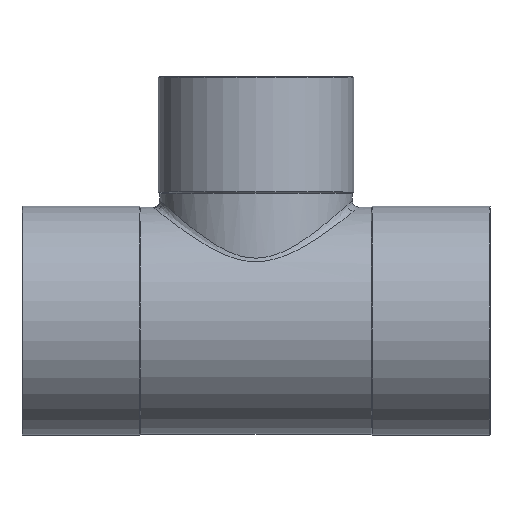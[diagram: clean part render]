
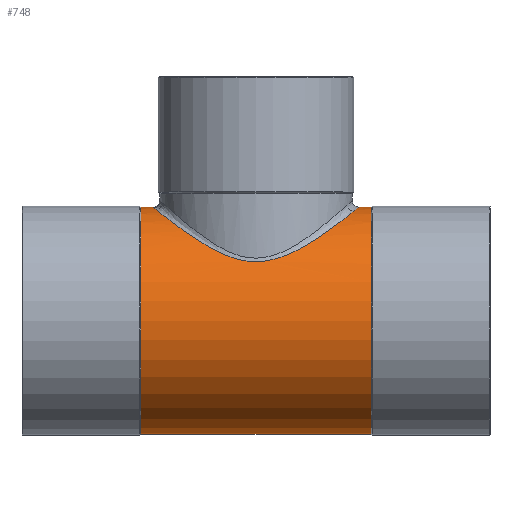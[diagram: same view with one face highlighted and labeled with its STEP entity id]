
A CAD part, top view. The second image highlights one B-rep face of the part: STEP entity #748.
In plain terms, the highlighted cylindrical face has radius 33.5 mm (diameter 67 mm), a partial arc.
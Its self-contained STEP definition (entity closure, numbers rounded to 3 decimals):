
#133=CARTESIAN_POINT('',(33.996,33.5,0.0));
#134=VERTEX_POINT('',#133);
#143=CARTESIAN_POINT('',(33.996,-33.5,0.));
#144=VERTEX_POINT('',#143);
#145=CARTESIAN_POINT('',(33.996,0.0,0.0));
#146=DIRECTION('',(1.0,0.0,0.0));
#147=DIRECTION('',(0.0,1.0,0.0));
#148=AXIS2_PLACEMENT_3D('',#145,#146,#147);
#149=CIRCLE('',#148,33.5);
#150=EDGE_CURVE('',#134,#144,#149,.T.);
#177=CARTESIAN_POINT('',(-33.996,33.5,0.0));
#178=VERTEX_POINT('',#177);
#194=CARTESIAN_POINT('',(-33.996,-33.5,0.));
#195=VERTEX_POINT('',#194);
#202=CARTESIAN_POINT('',(-33.996,0.0,0.0));
#203=DIRECTION('',(1.0,0.0,0.0));
#204=DIRECTION('',(0.0,1.0,0.0));
#205=AXIS2_PLACEMENT_3D('',#202,#203,#204);
#206=CIRCLE('',#205,33.5);
#207=EDGE_CURVE('',#178,#195,#206,.T.);
#698=CARTESIAN_POINT('',(16.998,0.0,0.0));
#699=DIRECTION('',(1.0,0.0,0.0));
#700=DIRECTION('',(0.0,1.0,0.0));
#701=AXIS2_PLACEMENT_3D('',#698,#699,#700);
#702=CYLINDRICAL_SURFACE('',#701,33.5);
#703=CARTESIAN_POINT('',(-30.35,33.5,0.));
#704=VERTEX_POINT('',#703);
#705=CARTESIAN_POINT('',(-33.996,33.5,0.0));
#706=DIRECTION('',(1.0,0.0,0.0));
#707=VECTOR('',#706,3.646);
#708=LINE('',#705,#707);
#709=EDGE_CURVE('',#178,#704,#708,.T.);
#710=ORIENTED_EDGE('',*,*,#709,.F.);
#711=ORIENTED_EDGE('',*,*,#207,.T.);
#712=CARTESIAN_POINT('',(33.996,-33.5,0.));
#713=DIRECTION('',(-1.0,0.0,0.0));
#714=VECTOR('',#713,67.992);
#715=LINE('',#712,#714);
#716=EDGE_CURVE('',#144,#195,#715,.T.);
#717=ORIENTED_EDGE('',*,*,#716,.F.);
#718=ORIENTED_EDGE('',*,*,#150,.F.);
#719=CARTESIAN_POINT('',(30.35,33.5,0.));
#720=VERTEX_POINT('',#719);
#721=CARTESIAN_POINT('',(30.35,33.5,0.));
#722=DIRECTION('',(1.0,0.0,0.0));
#723=VECTOR('',#722,3.646);
#724=LINE('',#721,#723);
#725=EDGE_CURVE('',#720,#134,#724,.T.);
#726=ORIENTED_EDGE('',*,*,#725,.F.);
#727=CARTESIAN_POINT('',(-30.35,33.5,0.));
#728=CARTESIAN_POINT('',(-30.35,33.5,5.254));
#729=CARTESIAN_POINT('',(-28.711,32.155,10.487));
#730=CARTESIAN_POINT('',(-23.36,28.031,18.951));
#731=CARTESIAN_POINT('',(-19.679,25.238,22.314));
#732=CARTESIAN_POINT('',(-11.848,20.508,26.643));
#733=CARTESIAN_POINT('',(-7.855,18.424,27.993));
#734=CARTESIAN_POINT('',(0.684,16.982,28.888));
#735=CARTESIAN_POINT('',(4.926,17.711,28.492));
#736=CARTESIAN_POINT('',(12.291,20.655,26.436));
#737=CARTESIAN_POINT('',(15.516,22.643,24.849));
#738=CARTESIAN_POINT('',(23.341,27.861,19.224));
#739=CARTESIAN_POINT('',(27.293,31.055,14.134));
#740=CARTESIAN_POINT('',(29.948,33.174,5.328));
#741=CARTESIAN_POINT('',(30.35,33.5,2.662));
#742=CARTESIAN_POINT('',(30.35,33.5,0.));
#743=B_SPLINE_CURVE_WITH_KNOTS('',3,(#727,#728,#729,#730,#731,#732,#733,#734,#735,#736,#737,#738,#739,#740,#741,#742),.UNSPECIFIED.,.F.,.U.,(4,2,2,2,2,2,2,4),(4.647,6.174,7.734,8.99,10.115,11.239,13.174,13.946),.UNSPECIFIED.);
#744=EDGE_CURVE('',#704,#720,#743,.T.);
#745=ORIENTED_EDGE('',*,*,#744,.F.);
#746=EDGE_LOOP('',(#710,#711,#717,#718,#726,#745));
#747=FACE_OUTER_BOUND('',#746,.T.);
#748=ADVANCED_FACE('',(#747),#702,.T.);
